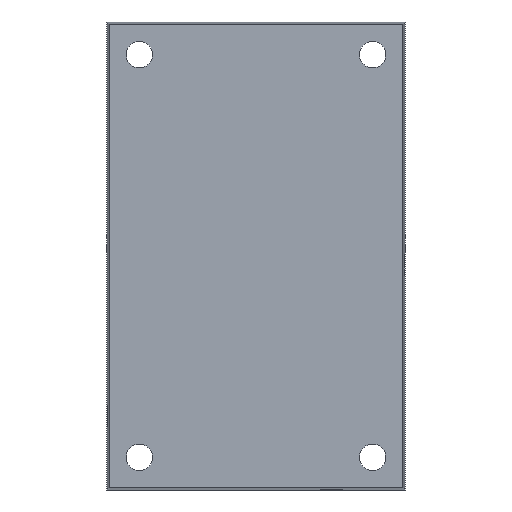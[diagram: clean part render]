
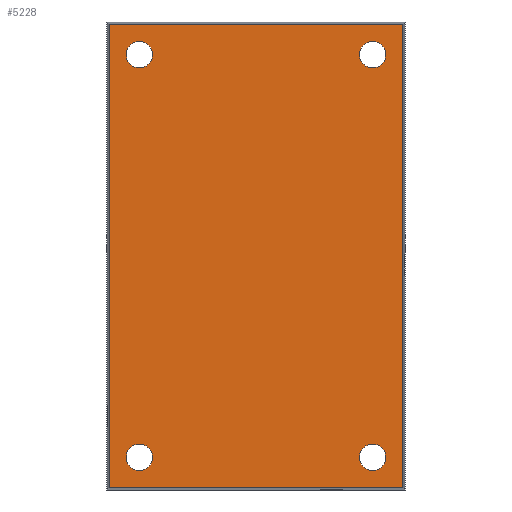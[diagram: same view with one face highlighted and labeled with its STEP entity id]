
A CAD part, front view. The second image highlights one B-rep face of the part: STEP entity #5228.
In plain terms, the highlighted planar face has unit normal (0, -1, 0).
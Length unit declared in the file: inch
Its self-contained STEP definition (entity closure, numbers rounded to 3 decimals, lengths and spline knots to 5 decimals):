
#202 = FACE_BOUND ( 'NONE', #12520, .T. ) ;
#696 = CARTESIAN_POINT ( 'NONE',  ( 0.6875, -0.825, 1.2655 ) ) ;
#916 = EDGE_CURVE ( 'NONE', #3318, #13449, #6785, .T. ) ;
#1023 = CARTESIAN_POINT ( 'NONE',  ( 0.6875, -0.825, 1.1875 ) ) ;
#1153 = DIRECTION ( 'NONE',  ( 0., 0., 1. ) ) ;
#1297 = ORIENTED_EDGE ( 'NONE', *, *, #8243, .T. ) ;
#1848 = LINE ( 'NONE', #9546, #4783 ) ;
#1918 = CIRCLE ( 'NONE', #10189, 0.078 ) ;
#1983 = ORIENTED_EDGE ( 'NONE', *, *, #7581, .F. ) ;
#2149 = LINE ( 'NONE', #12326, #8309 ) ;
#2249 = EDGE_LOOP ( 'NONE', ( #6230, #15741 ) ) ;
#2258 = DIRECTION ( 'NONE',  ( 0., 0., 1. ) ) ;
#2277 = CARTESIAN_POINT ( 'NONE',  ( -0.6875, -0.825, 1.1095 ) ) ;
#2399 = VERTEX_POINT ( 'NONE', #3728 ) ;
#2426 = LINE ( 'NONE', #9256, #8601 ) ;
#2508 = DIRECTION ( 'NONE',  ( 0., 0., 1. ) ) ;
#2638 = VERTEX_POINT ( 'NONE', #9822 ) ;
#2832 = VERTEX_POINT ( 'NONE', #13039 ) ;
#2955 = AXIS2_PLACEMENT_3D ( 'NONE', #3158, #11753, #4411 ) ;
#3060 = FACE_BOUND ( 'NONE', #4900, .T. ) ;
#3101 = DIRECTION ( 'NONE',  ( 0., 1., 0. ) ) ;
#3158 = CARTESIAN_POINT ( 'NONE',  ( -0.6875, -0.825, 1.1875 ) ) ;
#3318 = VERTEX_POINT ( 'NONE', #11299 ) ;
#3418 = DIRECTION ( 'NONE',  ( -1., 0., 0. ) ) ;
#3424 = ORIENTED_EDGE ( 'NONE', *, *, #7284, .F. ) ;
#3507 = EDGE_CURVE ( 'NONE', #4701, #13766, #1918, .T. ) ;
#3728 = CARTESIAN_POINT ( 'NONE',  ( 0.6875, -0.825, -1.2655 ) ) ;
#4411 = DIRECTION ( 'NONE',  ( 0., 0., 1. ) ) ;
#4445 = ORIENTED_EDGE ( 'NONE', *, *, #15545, .T. ) ;
#4670 = ORIENTED_EDGE ( 'NONE', *, *, #12557, .F. ) ;
#4701 = VERTEX_POINT ( 'NONE', #10674 ) ;
#4783 = VECTOR ( 'NONE', #3418, 39.37008 ) ;
#4900 = EDGE_LOOP ( 'NONE', ( #9745, #14585 ) ) ;
#4922 = VECTOR ( 'NONE', #8753, 39.37008 ) ;
#5086 = VERTEX_POINT ( 'NONE', #696 ) ;
#5217 = ORIENTED_EDGE ( 'NONE', *, *, #10083, .F. ) ;
#5228 = ADVANCED_FACE ( 'NONE', ( #202, #3060, #9632, #12490, #15778 ), #13332, .F. ) ;
#5472 = DIRECTION ( 'NONE',  ( 0., 1., 0. ) ) ;
#5506 = VERTEX_POINT ( 'NONE', #15679 ) ;
#5529 = CARTESIAN_POINT ( 'NONE',  ( -0.6875, -0.825, -1.1875 ) ) ;
#5986 = CARTESIAN_POINT ( 'NONE',  ( 0., -0.825, 0. ) ) ;
#6087 = CIRCLE ( 'NONE', #14681, 0.078 ) ;
#6230 = ORIENTED_EDGE ( 'NONE', *, *, #14802, .T. ) ;
#6431 = CIRCLE ( 'NONE', #2955, 0.078 ) ;
#6593 = DIRECTION ( 'NONE',  ( 0., 1., 0. ) ) ;
#6758 = DIRECTION ( 'NONE',  ( 0., 0., 1. ) ) ;
#6785 = CIRCLE ( 'NONE', #9972, 0.078 ) ;
#6871 = CARTESIAN_POINT ( 'NONE',  ( 0.8666, -0.825, 1.3656 ) ) ;
#7221 = DIRECTION ( 'NONE',  ( 0., 0., 1. ) ) ;
#7259 = DIRECTION ( 'NONE',  ( 0., 0., 1. ) ) ;
#7284 = EDGE_CURVE ( 'NONE', #10010, #2638, #1848, .T. ) ;
#7581 = EDGE_CURVE ( 'NONE', #5506, #9888, #2426, .T. ) ;
#8068 = EDGE_LOOP ( 'NONE', ( #9688, #12038 ) ) ;
#8186 = AXIS2_PLACEMENT_3D ( 'NONE', #1023, #9636, #2258 ) ;
#8243 = EDGE_CURVE ( 'NONE', #5086, #2832, #6087, .T. ) ;
#8309 = VECTOR ( 'NONE', #2508, 39.37008 ) ;
#8490 = CARTESIAN_POINT ( 'NONE',  ( -0.6875, -0.825, 1.1875 ) ) ;
#8531 = DIRECTION ( 'NONE',  ( 0., 1., 0. ) ) ;
#8601 = VECTOR ( 'NONE', #10488, 39.37008 ) ;
#8753 = DIRECTION ( 'NONE',  ( 0., 0., -1. ) ) ;
#9256 = CARTESIAN_POINT ( 'NONE',  ( 0., -0.825, 1.3656 ) ) ;
#9406 = CIRCLE ( 'NONE', #8186, 0.078 ) ;
#9546 = CARTESIAN_POINT ( 'NONE',  ( 0., -0.825, -1.3656 ) ) ;
#9597 = CIRCLE ( 'NONE', #12242, 0.078 ) ;
#9629 = EDGE_LOOP ( 'NONE', ( #5217, #1983, #4670, #3424 ) ) ;
#9632 = FACE_BOUND ( 'NONE', #2249, .T. ) ;
#9636 = DIRECTION ( 'NONE',  ( 0., 1., 0. ) ) ;
#9688 = ORIENTED_EDGE ( 'NONE', *, *, #14626, .T. ) ;
#9745 = ORIENTED_EDGE ( 'NONE', *, *, #916, .T. ) ;
#9822 = CARTESIAN_POINT ( 'NONE',  ( -0.8666, -0.825, -1.3656 ) ) ;
#9858 = EDGE_CURVE ( 'NONE', #13449, #3318, #6431, .T. ) ;
#9888 = VERTEX_POINT ( 'NONE', #6871 ) ;
#9972 = AXIS2_PLACEMENT_3D ( 'NONE', #8490, #15851, #7259 ) ;
#10010 = VERTEX_POINT ( 'NONE', #15909 ) ;
#10083 = EDGE_CURVE ( 'NONE', #9888, #10010, #11408, .T. ) ;
#10189 = AXIS2_PLACEMENT_3D ( 'NONE', #5529, #14107, #6758 ) ;
#10322 = AXIS2_PLACEMENT_3D ( 'NONE', #13927, #6593, #15190 ) ;
#10470 = CARTESIAN_POINT ( 'NONE',  ( 0.6875, -0.825, 1.1875 ) ) ;
#10488 = DIRECTION ( 'NONE',  ( 1., 0., 0. ) ) ;
#10569 = CIRCLE ( 'NONE', #10322, 0.078 ) ;
#10674 = CARTESIAN_POINT ( 'NONE',  ( -0.6875, -0.825, -1.2655 ) ) ;
#11299 = CARTESIAN_POINT ( 'NONE',  ( -0.6875, -0.825, 1.2655 ) ) ;
#11408 = LINE ( 'NONE', #14886, #4922 ) ;
#11697 = DIRECTION ( 'NONE',  ( 0., 0., 1. ) ) ;
#11753 = DIRECTION ( 'NONE',  ( 0., 1., 0. ) ) ;
#12038 = ORIENTED_EDGE ( 'NONE', *, *, #3507, .T. ) ;
#12242 = AXIS2_PLACEMENT_3D ( 'NONE', #12797, #5472, #14037 ) ;
#12326 = CARTESIAN_POINT ( 'NONE',  ( -0.8666, -0.825, 0. ) ) ;
#12490 = FACE_BOUND ( 'NONE', #8068, .T. ) ;
#12520 = EDGE_LOOP ( 'NONE', ( #1297, #4445 ) ) ;
#12557 = EDGE_CURVE ( 'NONE', #2638, #5506, #2149, .T. ) ;
#12797 = CARTESIAN_POINT ( 'NONE',  ( 0.6875, -0.825, -1.1875 ) ) ;
#13039 = CARTESIAN_POINT ( 'NONE',  ( 0.6875, -0.825, 1.1095 ) ) ;
#13168 = CARTESIAN_POINT ( 'NONE',  ( 0.6875, -0.825, -1.1095 ) ) ;
#13332 = PLANE ( 'NONE',  #14534 ) ;
#13401 = VERTEX_POINT ( 'NONE', #13168 ) ;
#13449 = VERTEX_POINT ( 'NONE', #2277 ) ;
#13766 = VERTEX_POINT ( 'NONE', #15367 ) ;
#13927 = CARTESIAN_POINT ( 'NONE',  ( -0.6875, -0.825, -1.1875 ) ) ;
#14037 = DIRECTION ( 'NONE',  ( 0., 0., 1. ) ) ;
#14107 = DIRECTION ( 'NONE',  ( 0., 1., 0. ) ) ;
#14534 = AXIS2_PLACEMENT_3D ( 'NONE', #5986, #14578, #7221 ) ;
#14578 = DIRECTION ( 'NONE',  ( 0., 1., 0. ) ) ;
#14585 = ORIENTED_EDGE ( 'NONE', *, *, #9858, .T. ) ;
#14626 = EDGE_CURVE ( 'NONE', #13766, #4701, #10569, .T. ) ;
#14681 = AXIS2_PLACEMENT_3D ( 'NONE', #10470, #3101, #11697 ) ;
#14802 = EDGE_CURVE ( 'NONE', #13401, #2399, #15178, .T. ) ;
#14886 = CARTESIAN_POINT ( 'NONE',  ( 0.8666, -0.825, 0. ) ) ;
#15178 = CIRCLE ( 'NONE', #15727, 0.078 ) ;
#15190 = DIRECTION ( 'NONE',  ( 0., 0., 1. ) ) ;
#15367 = CARTESIAN_POINT ( 'NONE',  ( -0.6875, -0.825, -1.1095 ) ) ;
#15545 = EDGE_CURVE ( 'NONE', #2832, #5086, #9406, .T. ) ;
#15679 = CARTESIAN_POINT ( 'NONE',  ( -0.8666, -0.825, 1.3656 ) ) ;
#15727 = AXIS2_PLACEMENT_3D ( 'NONE', #15889, #8531, #1153 ) ;
#15741 = ORIENTED_EDGE ( 'NONE', *, *, #15879, .T. ) ;
#15778 = FACE_OUTER_BOUND ( 'NONE', #9629, .T. ) ;
#15851 = DIRECTION ( 'NONE',  ( 0., 1., 0. ) ) ;
#15879 = EDGE_CURVE ( 'NONE', #2399, #13401, #9597, .T. ) ;
#15889 = CARTESIAN_POINT ( 'NONE',  ( 0.6875, -0.825, -1.1875 ) ) ;
#15909 = CARTESIAN_POINT ( 'NONE',  ( 0.8666, -0.825, -1.3656 ) ) ;
